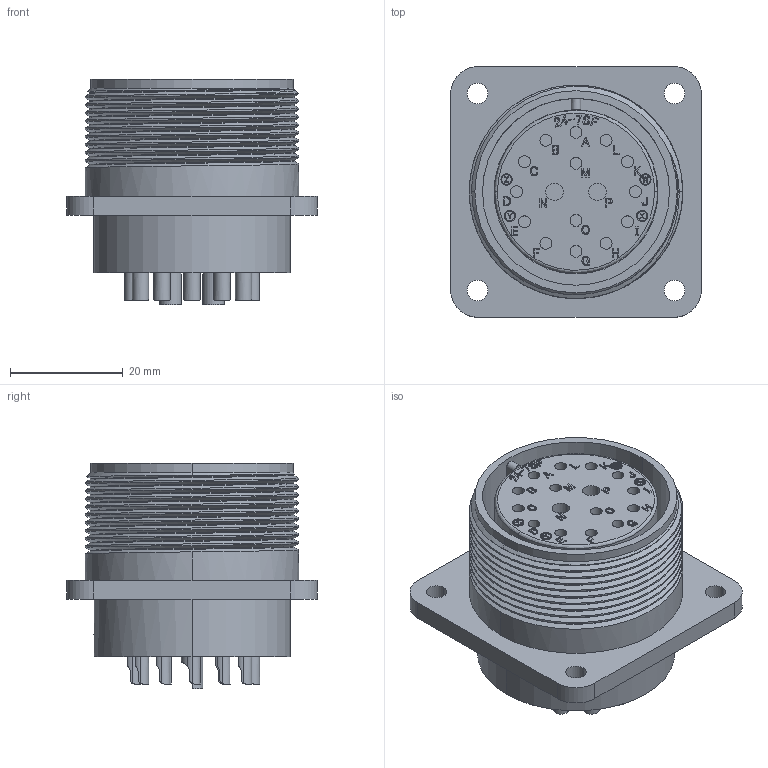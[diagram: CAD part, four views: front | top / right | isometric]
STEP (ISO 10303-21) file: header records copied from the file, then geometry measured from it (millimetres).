
FILE_DESCRIPTION (( 'STEP AP203' ), '1' );
FILE_NAME ('DMS3102A24-7S.STEP', '2017-03-06T02:17:36', ( '' ), ( '' ), 'SwSTEP 2.0', 'SolidWorks 2015', '' );
FILE_SCHEMA (( 'CONFIG_CONTROL_DESIGN' ));
Length unit declared in the file: millimetre
Products named in the file (1): DMS3102A24-7S
Bounding box: 44.45 x 44.45 x 40.03 mm (x, y, z)
Volume: 32816 mm3; surface area: 18513.9 mm2
Topology: 1 solids, 2 shells, 1381 faces, 3763 edges, 2502 vertices
Faces by surface type: plane 792, cylinder 315, bspline 271, cone 3
Entity records: 53876 total; most frequent: CARTESIAN_POINT 20741, ORIENTED_EDGE 7526, DIRECTION 5716, EDGE_CURVE 3763, VERTEX_POINT 2502, VECTOR 2450, LINE 2450, AXIS2_PLACEMENT_3D 1633
